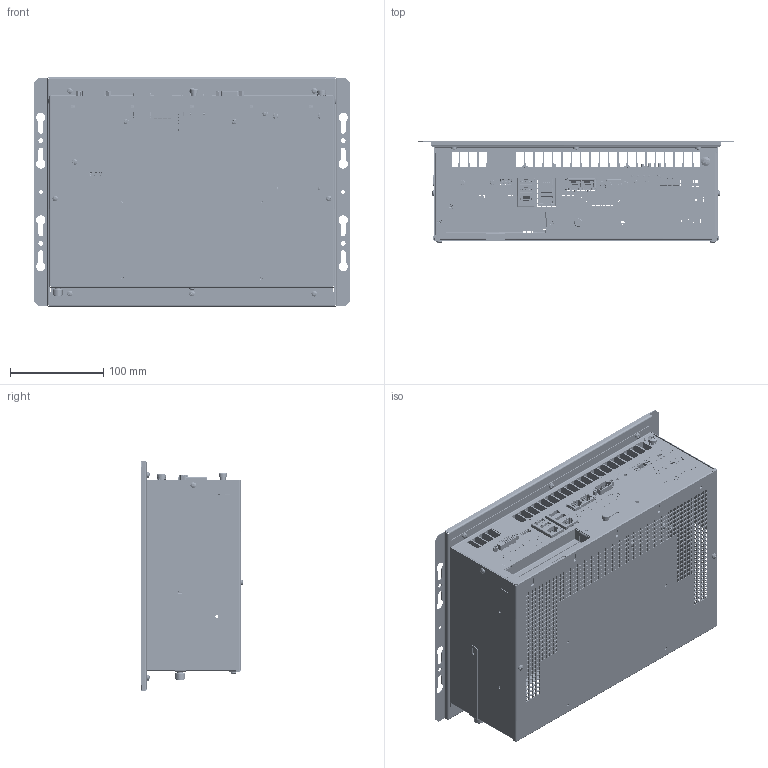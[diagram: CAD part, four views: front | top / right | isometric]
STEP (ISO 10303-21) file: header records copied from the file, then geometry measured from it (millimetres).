
FILE_DESCRIPTION (( 'STEP AP214' ), '1' );
FILE_NAME ('PB3600 S1.STEP', '2020-04-16T12:17:20', ( '' ), ( '' ), 'SwSTEP 2.0', 'SolidWorks 2019', '' );
FILE_SCHEMA (( 'AUTOMOTIVE_DESIGN' ));
Length unit declared in the file: millimetre
Products named in the file (46): 21409042; 66320001; 21410046; 65720029; 65720030; 69112004; PB3600 S1; 21502089; 51524089; 69120001; 51702303_Default<A macchina>; 66320016; 21614000; 23330039; 58502114; 52912002; D02201701; 58702102_Default<A macchina>; 7397_227; 59702267; 62920002; 21408088; Copia (2) di 55453005^D02201746; 21508153; 58102117; 62920009; 7359_056; 59302357_Default<A macchina>; 14300025; 7397_227_Depopolato; 21410052; 57936014; 21410056; 57902481; 52536147_Default<A macchina>; 55202070_Default<A macchina>; 21405043; 62920012; 21509026; 21405029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
Assembly tree (108 placements, depth 3):
  PB3600 S1
    D02201701
      52536147_Default<A macchina>
      52912002
      66320015  x4
      51524089  x14
    7359_056_dEPOPOLATO
      7359_056
      23330039  x2
      21410052
      21410046
      21410015
      21410056
      21409042
      21405029  x2
      21509026
      21508153
      21405043
    7397_227_Depopolato
      7397_227
      21502089
      21408088
    51702303_Default<A macchina>
    65720029  x19
    66320001  x4
    21614000  x4
    14300025  x5
    65720030  x10
    65720078
    62920012
    62920009
    62920002
    57902481  x2
    66320016  x4
    57936014
    66811014  x3
    Copia (2) di 55453005^D02201746
    59302357_Default<A macchina>
    58702102_Default<A macchina>
    59702267
    58502114
    55202070_Default<A macchina>
    58102117
    69112004
    57902482_Default<A macchina>
    69120001  x3
Bounding box: 338.4 x 109.29 x 246 mm (x, y, z)
Volume: 843943.4 mm3; surface area: 1132705 mm2
Topology: 214 solids, 252 shells, 28107 faces, 80046 edges, 52566 vertices
Faces by surface type: plane 20666, cylinder 5323, bspline 1182, cone 771, torus 107, sphere 58
Entity records: 848158 total; most frequent: CARTESIAN_POINT 182571, ORIENTED_EDGE 137374, DIRECTION 122098, EDGE_CURVE 70169, LINE 57564, VECTOR 57564, VERTEX_POINT 46288, AXIS2_PLACEMENT_3D 32267
